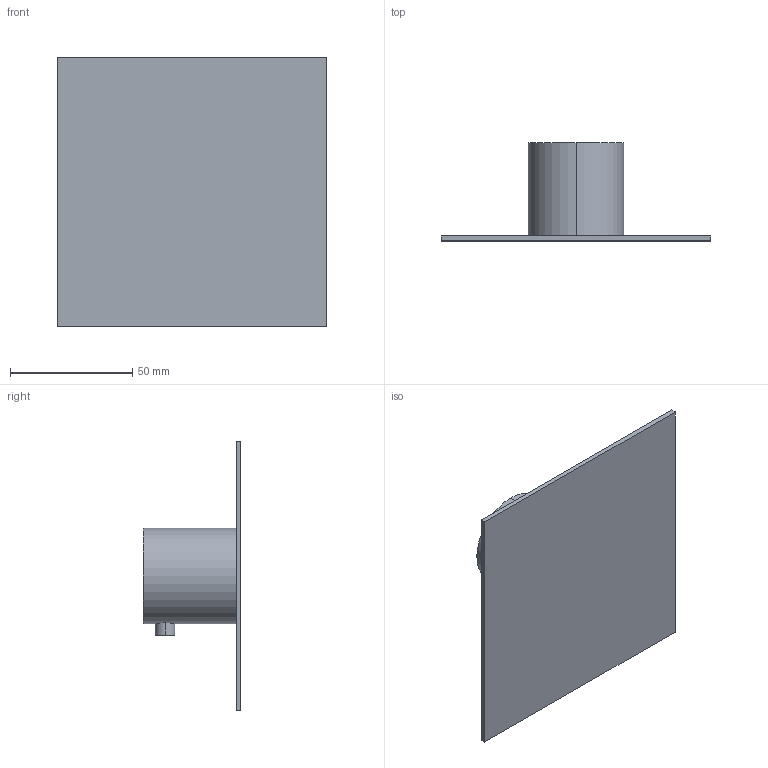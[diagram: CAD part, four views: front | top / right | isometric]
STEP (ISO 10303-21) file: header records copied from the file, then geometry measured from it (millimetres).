
FILE_DESCRIPTION (( 'STEP AP214' ), '1' );
FILE_NAME ('96260810 x architetti.STEP', '2024-09-26T12:38:07', ( '' ), ( '' ), 'SwSTEP 2.0', 'SolidWorks 2020', '' );
FILE_SCHEMA (( 'AUTOMOTIVE_DESIGN' ));
Length unit declared in the file: millimetre
Products named in the file (1): 96260810 x architetti
Bounding box: 110 x 40 x 110 mm (x, y, z)
Volume: 69803.7 mm3; surface area: 29924.1 mm2
Topology: 1 solids, 2 shells, 20 faces, 44 edges, 27 vertices
Faces by surface type: cylinder 8, plane 8, torus 2, cone 2
Entity records: 841 total; most frequent: CARTESIAN_POINT 216, DIRECTION 88, ORIENTED_EDGE 84, EDGE_CURVE 42, AXIS2_PLACEMENT_3D 33, VERTEX_POINT 27, VECTOR 22, LINE 22
